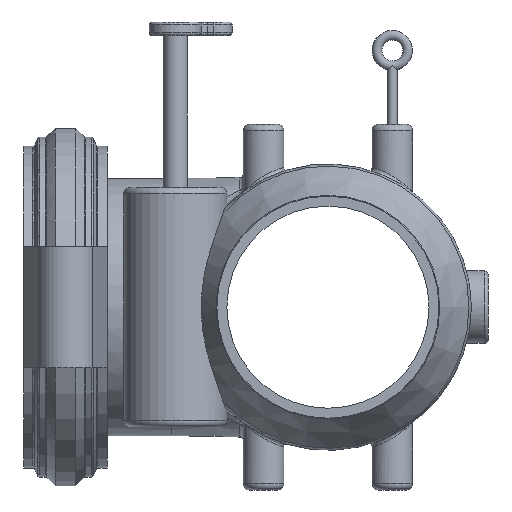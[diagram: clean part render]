
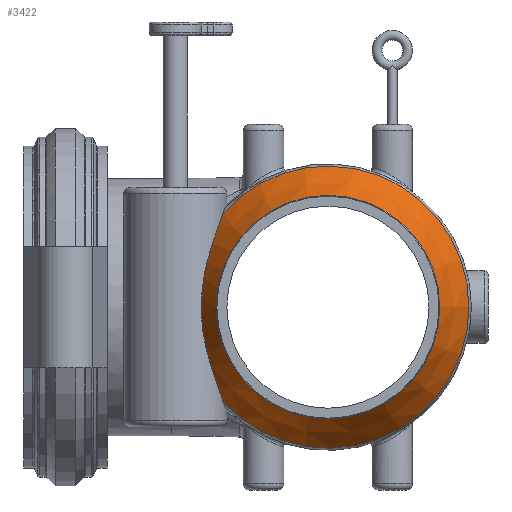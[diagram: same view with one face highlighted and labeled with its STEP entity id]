
A CAD part, left-side view. The second image highlights one B-rep face of the part: STEP entity #3422.
In plain terms, the highlighted conical face has half-angle 30 degrees and reference radius 99.799 mm.
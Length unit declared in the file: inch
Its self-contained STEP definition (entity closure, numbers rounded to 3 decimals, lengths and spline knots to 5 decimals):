
#83=CONICAL_SURFACE('',#3797,3.92911,0.524);
#377=FACE_OUTER_BOUND('',#581,.T.);
#581=EDGE_LOOP('',(#2862,#2863,#2864,#2865,#2866,#2867,#2868,#2869));
#793=CIRCLE('',#3798,3.47546);
#794=CIRCLE('',#3799,3.47546);
#795=CIRCLE('',#3800,4.38276);
#796=CIRCLE('',#3801,4.38276);
#797=CIRCLE('',#3802,3.47546);
#966=LINE('',#7644,#1104);
#1104=VECTOR('',#4684,3.92911);
#1198=B_SPLINE_CURVE_WITH_KNOTS('',3,(#7155,#7156,#7157,#7158,#7159,#7160,
#7161,#7162,#7163,#7164,#7165,#7166,#7167,#7168,#7169,#7170,#7171,#7172,
#7173,#7174,#7175,#7176,#7177,#7178,#7179,#7180),.UNSPECIFIED.,.F.,.F.,
(4,2,2,2,2,2,2,2,2,2,2,2,4),(17.75694,19.02032,21.19601,
22.28386,23.37171,24.45955,25.5474,26.63525,
27.7231,28.81094,29.89879,32.07449,33.33786),
 .UNSPECIFIED.);
#1447=VERTEX_POINT('',#7145);
#1448=VERTEX_POINT('',#7154);
#1482=VERTEX_POINT('',#7638);
#1483=VERTEX_POINT('',#7639);
#1484=VERTEX_POINT('',#7641);
#1485=VERTEX_POINT('',#7643);
#1888=EDGE_CURVE('',#1448,#1447,#1198,.T.);
#1957=EDGE_CURVE('',#1482,#1483,#793,.T.);
#1958=EDGE_CURVE('',#1484,#1482,#794,.T.);
#1959=EDGE_CURVE('',#1484,#1485,#966,.T.);
#1960=EDGE_CURVE('',#1485,#1448,#795,.T.);
#1961=EDGE_CURVE('',#1447,#1485,#796,.T.);
#1962=EDGE_CURVE('',#1483,#1484,#797,.T.);
#2862=ORIENTED_EDGE('',*,*,#1957,.F.);
#2863=ORIENTED_EDGE('',*,*,#1958,.F.);
#2864=ORIENTED_EDGE('',*,*,#1959,.T.);
#2865=ORIENTED_EDGE('',*,*,#1960,.T.);
#2866=ORIENTED_EDGE('',*,*,#1888,.T.);
#2867=ORIENTED_EDGE('',*,*,#1961,.T.);
#2868=ORIENTED_EDGE('',*,*,#1959,.F.);
#2869=ORIENTED_EDGE('',*,*,#1962,.F.);
#3422=ADVANCED_FACE('',(#377),#83,.T.);
#3797=AXIS2_PLACEMENT_3D('',#7637,#4678,#4679);
#3798=AXIS2_PLACEMENT_3D('',#7640,#4680,#4681);
#3799=AXIS2_PLACEMENT_3D('',#7642,#4682,#4683);
#3800=AXIS2_PLACEMENT_3D('',#7645,#4685,#4686);
#3801=AXIS2_PLACEMENT_3D('',#7646,#4687,#4688);
#3802=AXIS2_PLACEMENT_3D('',#7647,#4689,#4690);
#4678=DIRECTION('center_axis',(1.,0.,0.));
#4679=DIRECTION('ref_axis',(0.,1.,0.));
#4680=DIRECTION('center_axis',(-1.,0.,0.));
#4681=DIRECTION('ref_axis',(0.,0.,1.));
#4682=DIRECTION('center_axis',(-1.,0.,0.));
#4683=DIRECTION('ref_axis',(0.,0.,1.));
#4684=DIRECTION('',(0.866,-0.5,0.));
#4685=DIRECTION('center_axis',(-1.,0.,0.));
#4686=DIRECTION('ref_axis',(0.,0.,1.));
#4687=DIRECTION('center_axis',(-1.,0.,0.));
#4688=DIRECTION('ref_axis',(0.,0.,1.));
#4689=DIRECTION('center_axis',(-1.,0.,0.));
#4690=DIRECTION('ref_axis',(0.,0.,1.));
#7145=CARTESIAN_POINT('',(-4.56646,3.26352,-2.92541));
#7154=CARTESIAN_POINT('',(-4.56646,3.26352,2.92541));
#7155=CARTESIAN_POINT('Ctrl Pts',(-4.56646,3.26352,2.92541));
#7156=CARTESIAN_POINT('Ctrl Pts',(-4.66375,3.30415,2.79594));
#7157=CARTESIAN_POINT('Ctrl Pts',(-4.75087,3.35182,2.6595));
#7158=CARTESIAN_POINT('Ctrl Pts',(-4.96,3.48902,2.271));
#7159=CARTESIAN_POINT('Ctrl Pts',(-5.06138,3.58359,2.00624));
#7160=CARTESIAN_POINT('Ctrl Pts',(-5.17371,3.7077,1.59113));
#7161=CARTESIAN_POINT('Ctrl Pts',(-5.2047,3.74625,1.44967));
#7162=CARTESIAN_POINT('Ctrl Pts',(-5.25565,3.81422,1.1629));
#7163=CARTESIAN_POINT('Ctrl Pts',(-5.27564,3.84363,1.0176));
#7164=CARTESIAN_POINT('Ctrl Pts',(-5.30654,3.89112,0.72578));
#7165=CARTESIAN_POINT('Ctrl Pts',(-5.31746,3.90919,0.57925));
#7166=CARTESIAN_POINT('Ctrl Pts',(-5.33172,3.93314,0.28774));
#7167=CARTESIAN_POINT('Ctrl Pts',(-5.33507,3.93901,0.14276));
#7168=CARTESIAN_POINT('Ctrl Pts',(-5.33507,3.93901,-0.14276));
#7169=CARTESIAN_POINT('Ctrl Pts',(-5.33172,3.93314,-0.28774));
#7170=CARTESIAN_POINT('Ctrl Pts',(-5.31746,3.90919,-0.57925));
#7171=CARTESIAN_POINT('Ctrl Pts',(-5.30654,3.89112,-0.72578));
#7172=CARTESIAN_POINT('Ctrl Pts',(-5.27564,3.84363,-1.0176));
#7173=CARTESIAN_POINT('Ctrl Pts',(-5.25565,3.81422,-1.1629));
#7174=CARTESIAN_POINT('Ctrl Pts',(-5.2047,3.74625,-1.44967));
#7175=CARTESIAN_POINT('Ctrl Pts',(-5.17371,3.7077,-1.59113));
#7176=CARTESIAN_POINT('Ctrl Pts',(-5.06138,3.58359,-2.00624));
#7177=CARTESIAN_POINT('Ctrl Pts',(-4.96,3.48902,-2.271));
#7178=CARTESIAN_POINT('Ctrl Pts',(-4.75087,3.35182,-2.6595));
#7179=CARTESIAN_POINT('Ctrl Pts',(-4.66375,3.30415,-2.79594));
#7180=CARTESIAN_POINT('Ctrl Pts',(-4.56646,3.26352,-2.92541));
#7637=CARTESIAN_POINT('Origin',(-5.35221,0.,0.));
#7638=CARTESIAN_POINT('',(-6.13796,3.47546,0.));
#7639=CARTESIAN_POINT('',(-6.13796,0.,-3.47546));
#7640=CARTESIAN_POINT('Origin',(-6.13796,0.,0.));
#7641=CARTESIAN_POINT('',(-6.13796,-3.47546,0.));
#7642=CARTESIAN_POINT('Origin',(-6.13796,0.,0.));
#7643=CARTESIAN_POINT('',(-4.56646,-4.38276,0.));
#7644=CARTESIAN_POINT('',(-5.35221,-3.92911,0.));
#7645=CARTESIAN_POINT('Origin',(-4.56646,0.,0.));
#7646=CARTESIAN_POINT('Origin',(-4.56646,0.,0.));
#7647=CARTESIAN_POINT('Origin',(-6.13796,0.,0.));
